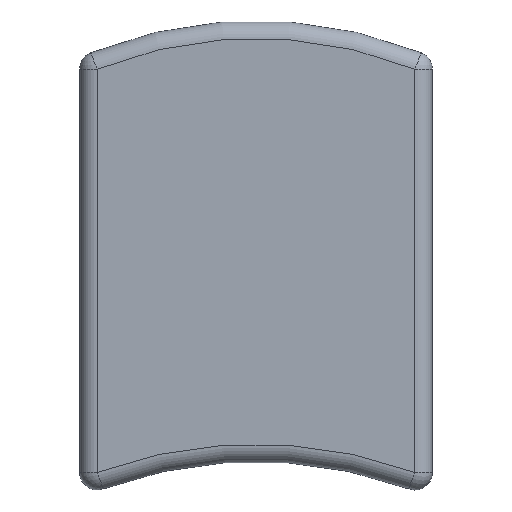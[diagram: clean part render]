
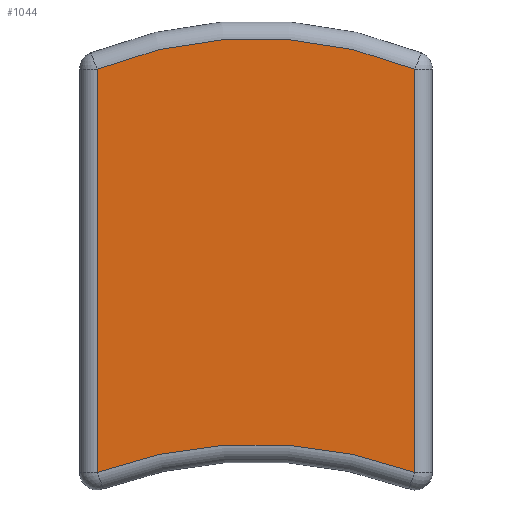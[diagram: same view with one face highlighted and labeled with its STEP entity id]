
A CAD part, left-side view. The second image highlights one B-rep face of the part: STEP entity #1044.
In plain terms, the highlighted planar face has unit normal (-1, 0, 0).
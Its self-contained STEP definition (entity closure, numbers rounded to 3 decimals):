
#111=LINE('',#1755,#161);
#135=LINE('',#2210,#185);
#161=VECTOR('',#1372,10.);
#185=VECTOR('',#1502,10.);
#197=PLANE('',#1203);
#267=FACE_OUTER_BOUND('',#343,.T.);
#343=EDGE_LOOP('',(#912,#913,#914,#915));
#425=CIRCLE('',#1183,48.029);
#430=CIRCLE('',#1193,52.029);
#461=VERTEX_POINT('',#1651);
#468=VERTEX_POINT('',#1669);
#470=VERTEX_POINT('',#1678);
#480=VERTEX_POINT('',#1747);
#582=EDGE_CURVE('',#480,#468,#111,.T.);
#647=EDGE_CURVE('',#470,#480,#425,.T.);
#656=EDGE_CURVE('',#461,#470,#135,.T.);
#658=EDGE_CURVE('',#468,#461,#430,.T.);
#912=ORIENTED_EDGE('',*,*,#582,.F.);
#913=ORIENTED_EDGE('',*,*,#647,.F.);
#914=ORIENTED_EDGE('',*,*,#656,.F.);
#915=ORIENTED_EDGE('',*,*,#658,.F.);
#1044=ADVANCED_FACE('',(#267),#197,.T.);
#1183=AXIS2_PLACEMENT_3D('',#2197,#1481,#1482);
#1193=AXIS2_PLACEMENT_3D('',#2213,#1507,#1508);
#1203=AXIS2_PLACEMENT_3D('',#2229,#1533,#1534);
#1372=DIRECTION('',(0.,0.,-1.));
#1481=DIRECTION('center_axis',(1.,0.,0.));
#1482=DIRECTION('ref_axis',(0.,0.,1.));
#1502=DIRECTION('',(0.,0.,1.));
#1507=DIRECTION('center_axis',(-1.,0.,0.));
#1508=DIRECTION('ref_axis',(0.,0.,1.));
#1533=DIRECTION('center_axis',(-1.,0.,0.));
#1534=DIRECTION('ref_axis',(0.,0.,1.));
#1651=CARTESIAN_POINT('',(0.,38.,2.959));
#1669=CARTESIAN_POINT('',(0.,2.,2.959));
#1678=CARTESIAN_POINT('',(0.,38.,48.671));
#1747=CARTESIAN_POINT('',(0.,2.,48.671));
#1755=CARTESIAN_POINT('',(0.,2.,12.5));
#2197=CARTESIAN_POINT('Origin',(0.,20.,4.143));
#2210=CARTESIAN_POINT('',(0.,38.,12.5));
#2213=CARTESIAN_POINT('Origin',(0.,20.,-45.857));
#2229=CARTESIAN_POINT('Origin',(0.,0.,0.));
